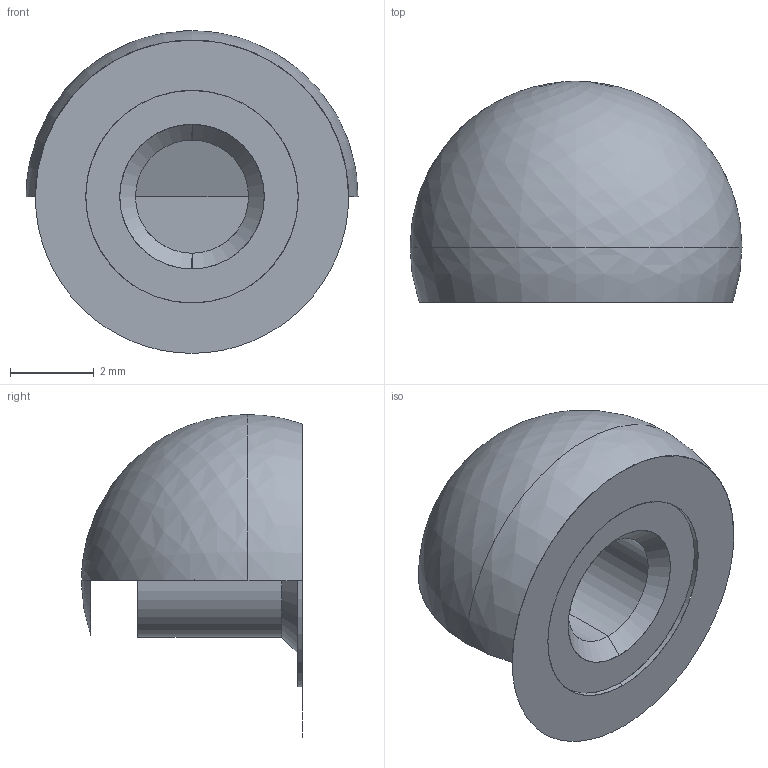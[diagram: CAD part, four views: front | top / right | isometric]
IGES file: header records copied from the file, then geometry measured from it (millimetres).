
Start section: SolidWorks IGES file using analytic representation for surfaces
Global section: file name: D:\Solid_parts\MECHeDESIGN\Bal-Tec\Catalog 105-A\Distribution\IGES\312-TBR-T.IGS; native system: SolidWorks 2005 by SolidWorks Corporation; preprocessor: SolidWorks 2005 by SolidWorks Corporation; author: rvillegas; date: 061205.184153; units: inch
Bounding box: 7.94 x 5.28 x 7.71 mm (x, y, z)
Surface area: 195 mm2 (no closed solid volume)
Topology: 0 solids, 0 shells, 11 faces, 192 edges, 191 vertices
Faces by surface type: revolution 8, bspline 3
